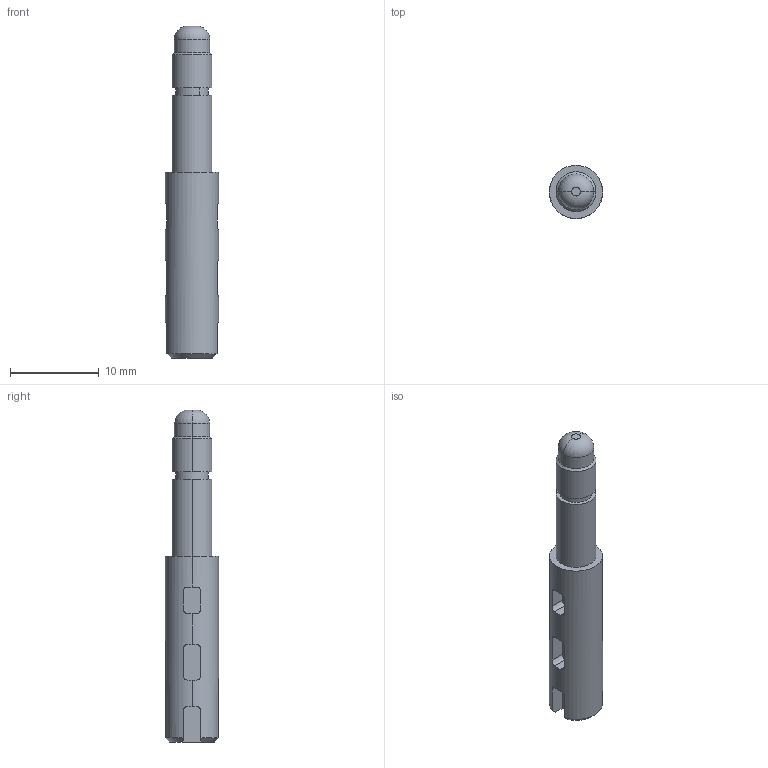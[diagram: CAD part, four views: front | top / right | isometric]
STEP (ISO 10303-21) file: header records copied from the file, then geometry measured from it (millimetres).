
FILE_DESCRIPTION(('CATIA V5 STEP Exchange'),'2;1');
FILE_NAME('C:\Users\Administrator\Desktop\LS42.13_V1 阀芯B.stp','2020-04-01T10:24:35+00:00',('none'),('none'),'CATIA Version 5 Release 21 GA (IN-10)','CATIA V5 STEP AP214','none');
FILE_SCHEMA(('AUTOMOTIVE_DESIGN { 1 0 10303 214 1 1 1 1 }'));
Length unit declared in the file: millimetre
Products named in the file (1): Copy (1) of 气缸阀杆
Bounding box: 6 x 6 x 37.5 mm (x, y, z)
Volume: 759.9 mm3; surface area: 764.7 mm2
Topology: 1 solids, 1 shells, 69 faces, 186 edges, 122 vertices
Faces by surface type: plane 33, cylinder 20, extrusion 10, cone 4, torus 2
Entity records: 2149 total; most frequent: CARTESIAN_POINT 583, ORIENTED_EDGE 372, DIRECTION 219, EDGE_CURVE 186, VERTEX_POINT 122, VECTOR 95, AXIS2_PLACEMENT_3D 91, LINE 85
